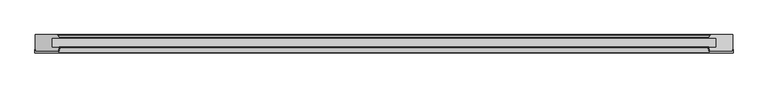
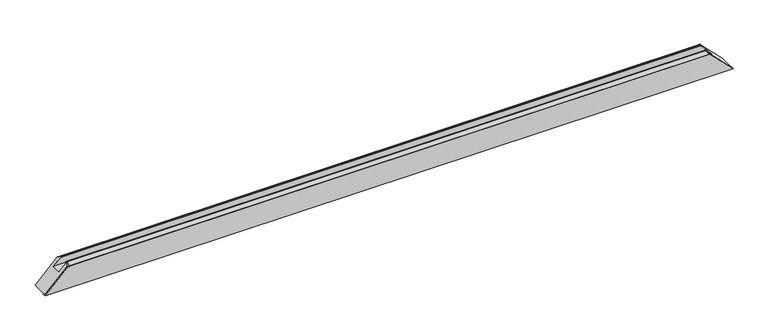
"""IFC4 building model written with IfcOpenShell, lengths in millimetres: proxy geometry, Weiku - Montante - Caixilho fixo : Weiku - Montante - Caixilho fixo."""

from ifc_helpers import new_model, si_unit, frame, origin, place, context, project, spatial, polyline, ellipse_curve, source, transform, mapped, element, save
from ifc_brep_helpers import plane_surface, cylinder_surface, revolved_surface, advanced_brep


def generic_models_4b9bac7d(model_context):
    return source(origin(), model_context, "Body", "AdvancedBrep", [
        advanced_brep(
        [(972.0, -41.9137905, -1.0), (971.0, -41.9137905, 0.0), (971.0, -47.0, 0.0), (909.0978094, -47.0, 61.9021906), (906.2000319, -44.7764571, 64.7999681), (904.118227, -37.0070552, 66.881773), (904.8909676, -36.0, 66.1090324), (904.8909676, -34.0, 66.1090324), (902.1863753, -37.5246933, 68.8136247), (905.598474, -50.258819, 65.401526), (906.5643998, -51.0, 64.4356002), (972.0, -51.0, -1.0), (-972.0, -51.0, -1.0), (-906.5643998, -51.0, 64.4356002), (-905.598474, -50.258819, 65.401526), (-902.1863753, -37.5246933, 68.8136247), (-904.8909676, -34.0, 66.1090324), (-904.8909676, -36.0, 66.1090324), (-904.118227, -37.0070552, 66.881773), (-906.2000319, -44.7764571, 64.7999681), (-909.0978094, -47.0, 61.9021906), (-971.0, -47.0, 0.0), (-971.0, -41.9137905, 0.0), (-972.0, -41.9137905, -1.0)],
        [
            (0, 1),
            (1, 2),
            (2, 3),
            (3, 4, ellipse_curve(frame((909.0978094, -44.0, 61.9021906), z_axis=(-0.7071067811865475, 0.0, -0.7071067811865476), x_axis=(0.7071067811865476, 0.0, -0.7071067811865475)), 4.2426407, 3.0)),
            (4, 5),
            (5, 6, ellipse_curve(frame((904.8909676, -36.8, 66.1090324), z_axis=(-0.7071067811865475, 0.0, -0.7071067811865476), x_axis=(0.7071067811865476, 0.0, -0.7071067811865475)), 1.1313708, 0.8)),
            (6, 7),
            (7, 8, ellipse_curve(frame((904.8909676, -36.8, 66.1090324), z_axis=(0.7071067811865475, 0.0, 0.7071067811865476), x_axis=(-0.7071067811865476, 0.0, 0.7071067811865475)), 3.959798, 2.8)),
            (8, 9),
            (9, 10, ellipse_curve(frame((906.5643998, -50.0, 64.4356002), z_axis=(0.7071067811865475, 0.0, 0.7071067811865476), x_axis=(-0.7071067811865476, 0.0, 0.7071067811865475)), 1.4142136, 1.0)),
            (10, 11),
            (11, 0),
            (12, 13),
            (13, 14, ellipse_curve(frame((-906.5643998, -50.0, 64.4356002), z_axis=(-0.7071067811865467, 0.0, 0.7071067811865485), x_axis=(-0.7071067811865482, 0.0, -0.7071067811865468)), 1.4142136, 1.0)),
            (14, 15),
            (15, 16, ellipse_curve(frame((-904.8909676, -36.8, 66.1090324), z_axis=(-0.7071067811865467, 0.0, 0.7071067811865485), x_axis=(-0.7071067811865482, 0.0, -0.7071067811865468)), 3.959798, 2.8)),
            (16, 17),
            (17, 18, ellipse_curve(frame((-904.8909676, -36.8, 66.1090324), z_axis=(0.7071067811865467, 0.0, -0.7071067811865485), x_axis=(0.7071067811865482, 0.0, 0.7071067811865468)), 1.1313708, 0.8)),
            (18, 19),
            (19, 20, ellipse_curve(frame((-909.0978094, -44.0, 61.9021906), z_axis=(0.7071067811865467, 0.0, -0.7071067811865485), x_axis=(0.7071067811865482, 0.0, 0.7071067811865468)), 4.2426407, 3.0)),
            (20, 21),
            (21, 22),
            (22, 23),
            (23, 12),
            (11, 12),
            (23, 0),
            (22, 1),
            (6, 17),
            (16, 7),
            (8, 15),
            (14, 9),
            (13, 10),
            (21, 2),
            (20, 3),
            (19, 4),
            (18, 5),
        ],
        [
            plane_surface(frame((901.0, 15.0, 70.0), z_axis=(0.7071067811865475, 0.0, 0.7071067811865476), x_axis=(0.0, -1.0, 0.0))),
            plane_surface(frame((-1041.0, 15.0, -70.0), z_axis=(-0.7071067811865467, 0.0, 0.7071067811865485), x_axis=(0.0, -1.0, 0.0))),
            plane_surface(frame((-973.8284271, -51.0, -1.0), z_axis=(0.0, 0.0, -1.0), x_axis=(1.0, 0.0, 0.0))),
            plane_surface(frame((-973.8284271, -41.9137905, -1.0), z_axis=(0.0, 1.0, 0.0), x_axis=(1.0, 0.0, 0.0))),
            plane_surface(frame((-973.8284271, -36.0, 66.1090324), z_axis=(0.0, 0.0, -1.0), x_axis=(1.0, 0.0, 0.0))),
            plane_surface(frame((-973.8284271, -37.5246933, 68.8136247), z_axis=(0.0, -0.25881904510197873, 0.9659258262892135), x_axis=(1.0, 0.0, 0.0))),
            cylinder_surface(frame((-973.8284271, -50.0, 64.4356002), z_axis=(-1.0, 0.0, 0.0), x_axis=(0.0, 1.0, 0.0)), 1.0),
            plane_surface(frame((-973.8284271, -51.0, 64.4356002), z_axis=(0.0, -1.0, 0.0), x_axis=(1.0, 0.0, 0.0))),
            plane_surface(frame((-973.8284271, -41.9137905, 0.0), z_axis=(0.0, 0.0, 1.0), x_axis=(1.0, 0.0, 0.0))),
            plane_surface(frame((-973.8284271, -47.0, 0.0), z_axis=(0.0, 1.0, 0.0), x_axis=(1.0, 0.0, 0.0))),
            revolved_surface(polyline([(912.0978094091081, -47.0, 61.9021906), (-912.097809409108, -47.0, 61.9021906)]), (-973.8284271, -44.0, 61.9021906), (1.0, 0.0, 0.0)),
            plane_surface(frame((-973.8284271, -44.7764571, 64.7999681), z_axis=(0.0, 0.2588190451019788, -0.9659258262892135), x_axis=(1.0, 0.0, 0.0))),
            revolved_surface(polyline([(905.6909675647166, -37.599999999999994, 66.1090324), (-905.6909675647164, -37.599999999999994, 66.1090324)]), (-973.8284271, -36.8, 66.1090324), (1.0, 0.0, 0.0)),
            cylinder_surface(frame((-973.8284271, -36.8, 66.1090324), z_axis=(-1.0, 0.0, 0.0), x_axis=(0.0, -1.0, 0.0)), 2.8),
        ],
        [
            (0, [[1, 2, 3, 4, 5, 6, 7, 8, 9, 10, 11, 12]]),
            (1, [[13, 14, 15, 16, 17, 18, 19, 20, 21, 22, 23, 24]]),
            (2, [[25, -24, 26, -12]]),
            (3, [[-26, -23, 27, -1]]),
            (4, [[28, -17, 29, -7]]),
            (5, [[30, -15, 31, -9]]),
            (6, [[-31, -14, 32, -10]]),
            (7, [[-32, -13, -25, -11]]),
            (8, [[-27, -22, 33, -2]]),
            (9, [[-33, -21, 34, -3]]),
            (10, [[-34, -20, 35, -4]]),
            (11, [[-35, -19, 36, -5]]),
            (12, [[-36, -18, -28, -6]]),
            (13, [[-29, -16, -30, -8]]),
        ],
    ),
        advanced_brep(
        [(-904.118227, -37.0070552, 66.881773), (-904.8909676, -36.0, 66.1090324), (-925.0, -36.0, 46.0), (-925.0, -9.5, 46.0), (-904.7, -9.5, 66.3), (-904.0, -8.8, 67.0), (-904.0, -7.4641016, 67.0), (-904.2679492, -6.4641016, 66.7320508), (-907.7113249, -0.5, 63.2886751), (-908.5773503, 0.0, 62.4226497), (-971.0, 0.0, 0.0), (-971.0, -47.0, 0.0), (-909.0978094, -47.0, 61.9021906), (-906.2000319, -44.7764571, 64.7999681), (906.2000319, -44.7764571, 64.7999681), (909.0978094, -47.0, 61.9021906), (971.0, -47.0, 0.0), (971.0, 0.0, 0.0), (908.5773503, 0.0, 62.4226497), (907.7113249, -0.5, 63.2886751), (904.2679492, -6.4641016, 66.7320508), (904.0, -7.4641016, 67.0), (904.0, -8.8, 67.0), (904.7, -9.5, 66.3), (925.0, -9.5, 46.0), (925.0, -36.0, 46.0), (904.8909676, -36.0, 66.1090324), (904.118227, -37.0070552, 66.881773)],
        [
            (0, 1, ellipse_curve(frame((-904.8909676, -36.8, 66.1090324), z_axis=(-0.7071067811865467, 0.0, 0.7071067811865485), x_axis=(-0.7071067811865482, 0.0, -0.7071067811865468)), 1.1313708, 0.8)),
            (1, 2),
            (2, 3),
            (3, 4),
            (4, 5, ellipse_curve(frame((-904.7, -8.8, 66.3), z_axis=(-0.7071067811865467, 0.0, 0.7071067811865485), x_axis=(-0.7071067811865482, 0.0, -0.7071067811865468)), 0.9899495, 0.7)),
            (5, 6),
            (6, 7, ellipse_curve(frame((-906.0, -7.4641016, 65.0), z_axis=(-0.7071067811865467, 0.0, 0.7071067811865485), x_axis=(-0.7071067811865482, 0.0, -0.7071067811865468)), 2.8284271, 2.0)),
            (7, 8),
            (8, 9, ellipse_curve(frame((-908.5773503, -1.0, 62.4226497), z_axis=(-0.7071067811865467, 0.0, 0.7071067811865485), x_axis=(-0.7071067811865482, 0.0, -0.7071067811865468)), 1.4142136, 1.0)),
            (9, 10),
            (10, 11),
            (11, 12),
            (12, 13, ellipse_curve(frame((-909.0978094, -44.0, 61.9021906), z_axis=(-0.7071067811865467, 0.0, 0.7071067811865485), x_axis=(-0.7071067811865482, 0.0, -0.7071067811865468)), 4.2426407, 3.0)),
            (13, 0),
            (14, 15, ellipse_curve(frame((909.0978094, -44.0, 61.9021906), z_axis=(0.7071067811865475, 0.0, 0.7071067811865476), x_axis=(-0.7071067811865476, 0.0, 0.7071067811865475)), 4.2426407, 3.0)),
            (15, 16),
            (16, 17),
            (17, 18),
            (18, 19, ellipse_curve(frame((908.5773503, -1.0, 62.4226497), z_axis=(0.7071067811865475, 0.0, 0.7071067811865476), x_axis=(-0.7071067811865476, 0.0, 0.7071067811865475)), 1.4142136, 1.0)),
            (19, 20),
            (20, 21, ellipse_curve(frame((906.0, -7.4641016, 65.0), z_axis=(0.7071067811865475, 0.0, 0.7071067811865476), x_axis=(-0.7071067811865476, 0.0, 0.7071067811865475)), 2.8284271, 2.0)),
            (21, 22),
            (22, 23, ellipse_curve(frame((904.7, -8.8, 66.3), z_axis=(0.7071067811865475, 0.0, 0.7071067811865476), x_axis=(-0.7071067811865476, 0.0, 0.7071067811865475)), 0.9899495, 0.7)),
            (23, 24),
            (24, 25),
            (25, 26),
            (26, 27, ellipse_curve(frame((904.8909676, -36.8, 66.1090324), z_axis=(0.7071067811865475, 0.0, 0.7071067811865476), x_axis=(-0.7071067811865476, 0.0, 0.7071067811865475)), 1.1313708, 0.8)),
            (27, 14),
            (13, 14),
            (27, 0),
            (12, 15),
            (11, 16),
            (10, 17),
            (9, 18),
            (2, 25),
            (24, 3),
            (1, 26),
            (8, 19),
            (7, 20),
            (6, 21),
            (5, 22),
            (4, 23),
        ],
        [
            plane_surface(frame((-1041.0, 15.0, -70.0), z_axis=(-0.7071067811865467, 0.0, 0.7071067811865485), x_axis=(0.0, -1.0, 0.0))),
            plane_surface(frame((901.0, 15.0, 70.0), z_axis=(0.7071067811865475, 0.0, 0.7071067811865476), x_axis=(0.0, -1.0, 0.0))),
            plane_surface(frame((-971.0, -37.0070552, 66.881773), z_axis=(0.0, -0.2588190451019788, 0.9659258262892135), x_axis=(1.0, 0.0, 0.0))),
            cylinder_surface(frame((-971.0, -44.0, 61.9021906), z_axis=(-1.0, 0.0, 0.0), x_axis=(0.0, -1.0, 0.0)), 3.0),
            plane_surface(frame((-971.0, -47.0, 61.9021906), z_axis=(0.0, -1.0, 0.0), x_axis=(1.0, 0.0, 0.0))),
            plane_surface(frame((-971.0, -47.0, 0.0), z_axis=(0.0, 0.0, -1.0), x_axis=(1.0, 0.0, 0.0))),
            plane_surface(frame((-971.0, 0.0, 0.0), z_axis=(0.0, 1.0, 0.0), x_axis=(1.0, 0.0, 0.0))),
            plane_surface(frame((-971.0, -9.5, 46.0), z_axis=(0.0, 0.0, 1.0), x_axis=(1.0, 0.0, 0.0))),
            plane_surface(frame((-971.0, -36.0, 46.0), z_axis=(0.0, 1.0, 0.0), x_axis=(1.0, 0.0, 0.0))),
            cylinder_surface(frame((-971.0, -36.8, 66.1090324), z_axis=(-1.0, 0.0, 0.0), x_axis=(0.0, -1.0, 0.0)), 0.8),
            cylinder_surface(frame((-971.0, -1.0, 62.4226497), z_axis=(-1.0, 0.0, 0.0), x_axis=(0.0, -1.0, 0.0)), 1.0),
            plane_surface(frame((-971.0, -0.5, 63.2886751), z_axis=(0.0, 0.49999999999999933, 0.866025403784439), x_axis=(1.0, 0.0, 0.0))),
            cylinder_surface(frame((-971.0, -7.4641016, 65.0), z_axis=(-1.0, 0.0, 0.0), x_axis=(0.0, -1.0, 0.0)), 2.0),
            plane_surface(frame((-971.0, -7.4641016, 67.0), z_axis=(0.0, 0.0, 1.0), x_axis=(1.0, 0.0, 0.0))),
            cylinder_surface(frame((-971.0, -8.8, 66.3), z_axis=(-1.0, 0.0, 0.0), x_axis=(0.0, -1.0, 0.0)), 0.7),
            plane_surface(frame((-971.0, -9.5, 66.3), z_axis=(0.0, -1.0, 0.0), x_axis=(1.0, 0.0, 0.0))),
        ],
        [
            (0, [[1, 2, 3, 4, 5, 6, 7, 8, 9, 10, 11, 12, 13, 14]]),
            (1, [[15, 16, 17, 18, 19, 20, 21, 22, 23, 24, 25, 26, 27, 28]]),
            (2, [[29, -28, 30, -14]]),
            (3, [[31, -15, -29, -13]]),
            (4, [[-16, -31, -12, 32]]),
            (5, [[-11, 33, -17, -32]]),
            (6, [[-10, 34, -18, -33]]),
            (7, [[35, -25, 36, -3]]),
            (8, [[37, -26, -35, -2]]),
            (9, [[-30, -27, -37, -1]]),
            (10, [[38, -19, -34, -9]]),
            (11, [[39, -20, -38, -8]]),
            (12, [[40, -21, -39, -7]]),
            (13, [[41, -22, -40, -6]]),
            (14, [[42, -23, -41, -5]]),
            (15, [[-36, -24, -42, -4]]),
        ],
    ),
    ])


if __name__ == "__main__":
    model = new_model("IFC4")
    model_context = context("Model", 3, world=origin())
    ifc_project = project(units=[si_unit("LENGTHUNIT", "METRE", prefix="MILLI")], contexts=[model_context])
    site = spatial("IfcSite", under=ifc_project)
    building = spatial("IfcBuilding", under=site)
    placement = place(None, origin())
    generic_models_shape = generic_models_4b9bac7d(model_context)
    element("IfcBuildingElementProxy", 1, Name="Weiku - Montante - Caixilho fixo : Weiku - Montante - Caixilho fixo", ObjectType="Weiku - Montante - Caixilho fixo : Weiku - Montante - Caixilho fixo", at=placement, inside=building, context=model_context, shape_type="MappedRepresentation", body=[
        mapped(generic_models_shape, transform((0.0, 0.0, 0.0), x_axis=(1.0, 0.0, 0.0), y_axis=(0.0, 1.0, 0.0), z_axis=(0.0, 0.0, 1.0))),
    ])
    save(model, "model.ifc")
